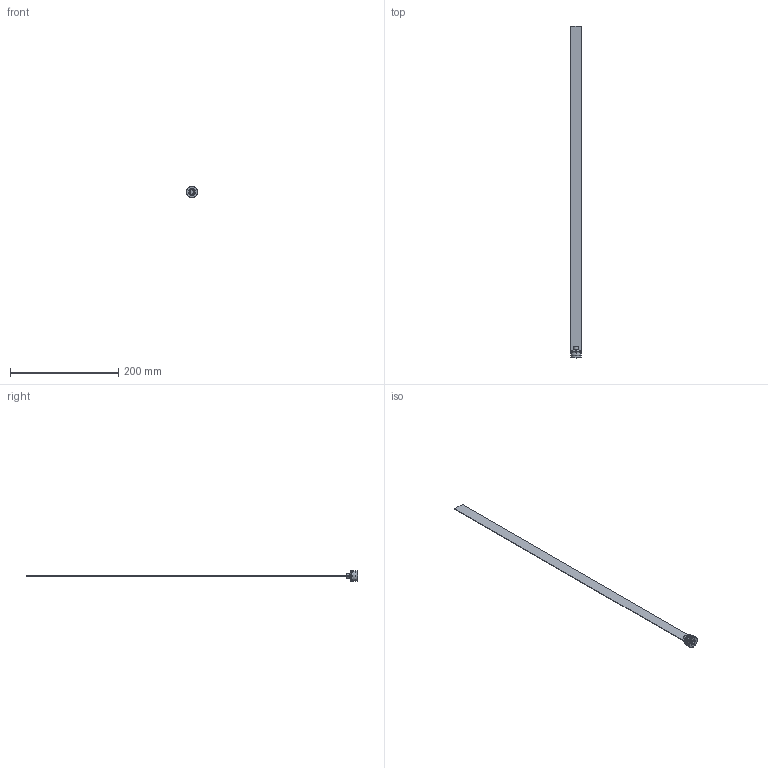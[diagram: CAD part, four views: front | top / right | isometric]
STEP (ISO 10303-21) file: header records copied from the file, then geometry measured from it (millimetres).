
FILE_DESCRIPTION (( 'STEP AP203' ), '1' );
FILE_NAME ('RL-20Fx600-19,5.STEP', '2015-12-02T15:18:42', ( 'Balzi' ), ( '' ), 'SwSTEP 2.0', 'SolidWorks 2015', '' );
FILE_SCHEMA (( 'CONFIG_CONTROL_DESIGN' ));
Length unit declared in the file: millimetre
Products named in the file (1): RL-20Fx600-19,5
Bounding box: 21.5 x 614 x 21.5 mm (x, y, z)
Volume: 16201.7 mm3; surface area: 26885.2 mm2
Topology: 1 solids, 1 shells, 75 faces, 177 edges, 109 vertices
Faces by surface type: plane 31, cone 19, cylinder 17, torus 8
Entity records: 2245 total; most frequent: CARTESIAN_POINT 412, DIRECTION 386, ORIENTED_EDGE 354, EDGE_CURVE 177, AXIS2_PLACEMENT_3D 147, VERTEX_POINT 109, VECTOR 92, LINE 92
